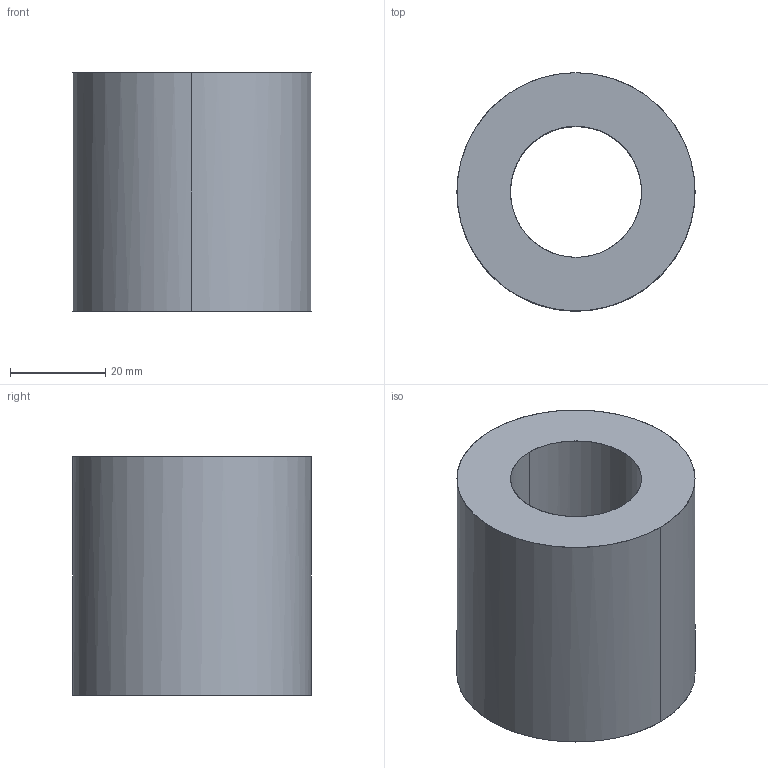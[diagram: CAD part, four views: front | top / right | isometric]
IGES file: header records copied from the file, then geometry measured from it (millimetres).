
Global section: file name: E:\UnigraphicsGraphicData\MISUMI_PRESS-PARTS\IGES\3d_swf50-50_00711_r00.igs; native system: NX V5.0; preprocessor: UGS NX IGES V5.0; author: MISUMI; date: 20110105.163255; units: millimetre
Bounding box: 50 x 50 x 50 mm (x, y, z)
Surface area: 14913.3 mm2 (no closed solid volume)
Topology: 0 solids, 0 shells, 6 faces, 80 edges, 80 vertices
Faces by surface type: bspline 6
